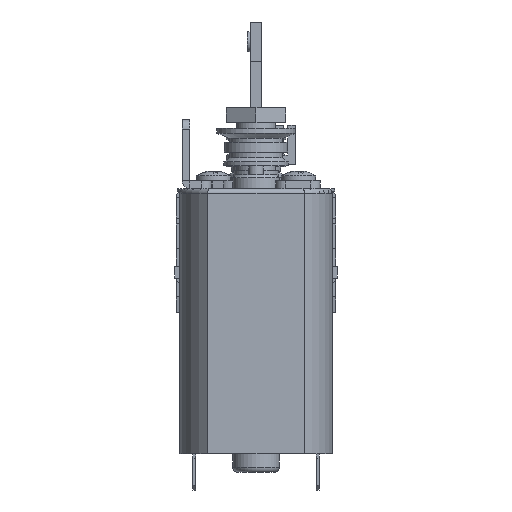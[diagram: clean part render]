
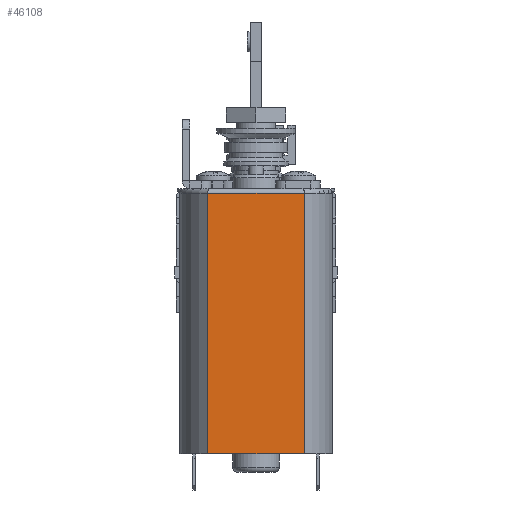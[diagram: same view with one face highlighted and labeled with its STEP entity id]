
A CAD part, left-side view. The second image highlights one B-rep face of the part: STEP entity #46108.
In plain terms, the highlighted planar face has unit normal (-1, 0, 0).
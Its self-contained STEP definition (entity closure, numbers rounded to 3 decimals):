
#39866 = VERTEX_POINT('',#39867);
#39867 = CARTESIAN_POINT('',(-60.5,4.905,-8.7));
#39911 = CYLINDRICAL_SURFACE('',#39912,0.5);
#39912 = AXIS2_PLACEMENT_3D('',#39913,#39914,#39915);
#39913 = CARTESIAN_POINT('',(-60.,-4.905,-8.7));
#39914 = DIRECTION('',(0.,1.,0.));
#39915 = DIRECTION('',(0.,0.,1.));
#39953 = CYLINDRICAL_SURFACE('',#39954,7.75);
#39954 = AXIS2_PLACEMENT_3D('',#39955,#39956,#39957);
#39955 = CARTESIAN_POINT('',(-54.5,0.,-8.2));
#39956 = DIRECTION('',(0.,0.,1.));
#39957 = DIRECTION('',(0.,-1.,0.));
#41460 = VERTEX_POINT('',#41461);
#41461 = CARTESIAN_POINT('',(-60.5,-4.905,-8.7));
#41544 = CYLINDRICAL_SURFACE('',#41545,7.75);
#41545 = AXIS2_PLACEMENT_3D('',#41546,#41547,#41548);
#41546 = CARTESIAN_POINT('',(-54.5,0.,-8.2));
#41547 = DIRECTION('',(0.,0.,1.));
#41548 = DIRECTION('',(0.,-1.,0.));
#41664 = PLANE('',#41665);
#41665 = AXIS2_PLACEMENT_3D('',#41666,#41667,#41668);
#41666 = CARTESIAN_POINT('',(-54.5,0.,-35.1));
#41667 = DIRECTION('',(0.,0.,1.));
#41668 = DIRECTION('',(0.,-1.,0.));
#41895 = EDGE_CURVE('',#41460,#39866,#41896,.T.);
#41896 = SURFACE_CURVE('',#41897,(#41901,#41908),.PCURVE_S1.);
#41897 = LINE('',#41898,#41899);
#41898 = CARTESIAN_POINT('',(-60.5,-4.905,-8.7));
#41899 = VECTOR('',#41900,1.);
#41900 = DIRECTION('',(0.,1.,0.));
#41901 = PCURVE('',#39911,#41902);
#41902 = DEFINITIONAL_REPRESENTATION('',(#41903),#41907);
#41903 = LINE('',#41904,#41905);
#41904 = CARTESIAN_POINT('',(-1.571,0.));
#41905 = VECTOR('',#41906,1.);
#41906 = DIRECTION('',(-0.,1.));
#41907 = ( GEOMETRIC_REPRESENTATION_CONTEXT(2) 
PARAMETRIC_REPRESENTATION_CONTEXT() REPRESENTATION_CONTEXT('2D SPACE',''
  ) );
#41908 = PCURVE('',#41909,#41914);
#41909 = PLANE('',#41910);
#41910 = AXIS2_PLACEMENT_3D('',#41911,#41912,#41913);
#41911 = CARTESIAN_POINT('',(-60.5,12.,-41.2));
#41912 = DIRECTION('',(1.,0.,0.));
#41913 = DIRECTION('',(0.,0.,1.));
#41914 = DEFINITIONAL_REPRESENTATION('',(#41915),#41919);
#41915 = LINE('',#41916,#41917);
#41916 = CARTESIAN_POINT('',(32.5,16.905));
#41917 = VECTOR('',#41918,1.);
#41918 = DIRECTION('',(0.,-1.));
#41919 = ( GEOMETRIC_REPRESENTATION_CONTEXT(2) 
PARAMETRIC_REPRESENTATION_CONTEXT() REPRESENTATION_CONTEXT('2D SPACE',''
  ) );
#41975 = EDGE_CURVE('',#41976,#39866,#41978,.T.);
#41976 = VERTEX_POINT('',#41977);
#41977 = CARTESIAN_POINT('',(-60.5,4.905,-35.1));
#41978 = SURFACE_CURVE('',#41979,(#41983,#41989),.PCURVE_S1.);
#41979 = LINE('',#41980,#41981);
#41980 = CARTESIAN_POINT('',(-60.5,4.905,-8.2));
#41981 = VECTOR('',#41982,1.);
#41982 = DIRECTION('',(0.,0.,1.));
#41983 = PCURVE('',#39953,#41984);
#41984 = DEFINITIONAL_REPRESENTATION('',(#41985),#41988);
#41985 = B_SPLINE_CURVE_WITH_KNOTS('',1,(#41986,#41987),.UNSPECIFIED.,
  .F.,.F.,(2,2),(-26.9,0.),.PIECEWISE_BEZIER_KNOTS.);
#41986 = CARTESIAN_POINT('',(4.027,-26.9));
#41987 = CARTESIAN_POINT('',(4.027,0.));
#41988 = ( GEOMETRIC_REPRESENTATION_CONTEXT(2) 
PARAMETRIC_REPRESENTATION_CONTEXT() REPRESENTATION_CONTEXT('2D SPACE',''
  ) );
#41989 = PCURVE('',#41909,#41990);
#41990 = DEFINITIONAL_REPRESENTATION('',(#41991),#41994);
#41991 = B_SPLINE_CURVE_WITH_KNOTS('',1,(#41992,#41993),.UNSPECIFIED.,
  .F.,.F.,(2,2),(-26.9,0.),.PIECEWISE_BEZIER_KNOTS.);
#41992 = CARTESIAN_POINT('',(6.1,7.095));
#41993 = CARTESIAN_POINT('',(33.,7.095));
#41994 = ( GEOMETRIC_REPRESENTATION_CONTEXT(2) 
PARAMETRIC_REPRESENTATION_CONTEXT() REPRESENTATION_CONTEXT('2D SPACE',''
  ) );
#45590 = EDGE_CURVE('',#45591,#41460,#45593,.T.);
#45591 = VERTEX_POINT('',#45592);
#45592 = CARTESIAN_POINT('',(-60.5,-4.905,-35.1));
#45593 = SURFACE_CURVE('',#45594,(#45598,#45604),.PCURVE_S1.);
#45594 = LINE('',#45595,#45596);
#45595 = CARTESIAN_POINT('',(-60.5,-4.905,-8.2));
#45596 = VECTOR('',#45597,1.);
#45597 = DIRECTION('',(0.,0.,1.));
#45598 = PCURVE('',#41544,#45599);
#45599 = DEFINITIONAL_REPRESENTATION('',(#45600),#45603);
#45600 = B_SPLINE_CURVE_WITH_KNOTS('',1,(#45601,#45602),.UNSPECIFIED.,
  .F.,.F.,(2,2),(-26.9,0.),.PIECEWISE_BEZIER_KNOTS.);
#45601 = CARTESIAN_POINT('',(5.398,-26.9));
#45602 = CARTESIAN_POINT('',(5.398,0.));
#45603 = ( GEOMETRIC_REPRESENTATION_CONTEXT(2) 
PARAMETRIC_REPRESENTATION_CONTEXT() REPRESENTATION_CONTEXT('2D SPACE',''
  ) );
#45604 = PCURVE('',#41909,#45605);
#45605 = DEFINITIONAL_REPRESENTATION('',(#45606),#45609);
#45606 = B_SPLINE_CURVE_WITH_KNOTS('',1,(#45607,#45608),.UNSPECIFIED.,
  .F.,.F.,(2,2),(-26.9,0.),.PIECEWISE_BEZIER_KNOTS.);
#45607 = CARTESIAN_POINT('',(6.1,16.905));
#45608 = CARTESIAN_POINT('',(33.,16.905));
#45609 = ( GEOMETRIC_REPRESENTATION_CONTEXT(2) 
PARAMETRIC_REPRESENTATION_CONTEXT() REPRESENTATION_CONTEXT('2D SPACE',''
  ) );
#45638 = EDGE_CURVE('',#45591,#41976,#45639,.T.);
#45639 = SURFACE_CURVE('',#45640,(#45644,#45650),.PCURVE_S1.);
#45640 = LINE('',#45641,#45642);
#45641 = CARTESIAN_POINT('',(-60.5,6.,-35.1));
#45642 = VECTOR('',#45643,1.);
#45643 = DIRECTION('',(0.,1.,0.));
#45644 = PCURVE('',#41664,#45645);
#45645 = DEFINITIONAL_REPRESENTATION('',(#45646),#45649);
#45646 = B_SPLINE_CURVE_WITH_KNOTS('',1,(#45647,#45648),.UNSPECIFIED.,
  .F.,.F.,(2,2),(-13.75,1.75),.PIECEWISE_BEZIER_KNOTS.);
#45647 = CARTESIAN_POINT('',(7.75,-6.));
#45648 = CARTESIAN_POINT('',(-7.75,-6.));
#45649 = ( GEOMETRIC_REPRESENTATION_CONTEXT(2) 
PARAMETRIC_REPRESENTATION_CONTEXT() REPRESENTATION_CONTEXT('2D SPACE',''
  ) );
#45650 = PCURVE('',#41909,#45651);
#45651 = DEFINITIONAL_REPRESENTATION('',(#45652),#45655);
#45652 = B_SPLINE_CURVE_WITH_KNOTS('',1,(#45653,#45654),.UNSPECIFIED.,
  .F.,.F.,(2,2),(-13.75,1.75),.PIECEWISE_BEZIER_KNOTS.);
#45653 = CARTESIAN_POINT('',(6.1,19.75));
#45654 = CARTESIAN_POINT('',(6.1,4.25));
#45655 = ( GEOMETRIC_REPRESENTATION_CONTEXT(2) 
PARAMETRIC_REPRESENTATION_CONTEXT() REPRESENTATION_CONTEXT('2D SPACE',''
  ) );
#46108 = ADVANCED_FACE('',(#46109),#41909,.F.);
#46109 = FACE_BOUND('',#46110,.F.);
#46110 = EDGE_LOOP('',(#46111,#46112,#46113,#46114));
#46111 = ORIENTED_EDGE('',*,*,#41975,.T.);
#46112 = ORIENTED_EDGE('',*,*,#41895,.F.);
#46113 = ORIENTED_EDGE('',*,*,#45590,.F.);
#46114 = ORIENTED_EDGE('',*,*,#45638,.T.);
